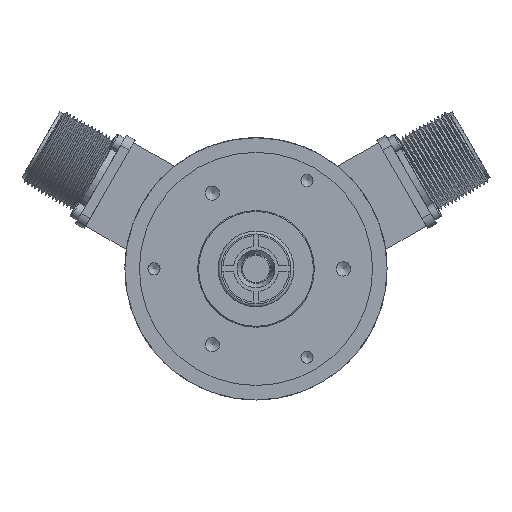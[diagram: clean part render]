
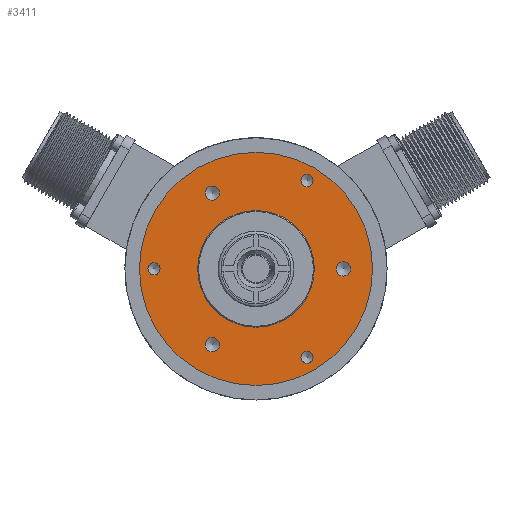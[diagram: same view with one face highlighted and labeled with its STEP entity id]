
A CAD part, left-side view. The second image highlights one B-rep face of the part: STEP entity #3411.
In plain terms, the highlighted planar face has unit normal (-1, 0, 0).
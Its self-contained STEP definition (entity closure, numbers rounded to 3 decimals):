
#3411 = ADVANCED_FACE( '', ( #7471, #7472, #7473, #7474, #7475, #7476, #7477, #7478 ), #7479, .F. );
#7471 = FACE_OUTER_BOUND( '', #14801, .T. );
#7472 = FACE_BOUND( '', #14802, .T. );
#7473 = FACE_BOUND( '', #14803, .T. );
#7474 = FACE_BOUND( '', #14804, .T. );
#7475 = FACE_BOUND( '', #14805, .T. );
#7476 = FACE_BOUND( '', #14806, .T. );
#7477 = FACE_BOUND( '', #14807, .T. );
#7478 = FACE_BOUND( '', #14808, .T. );
#7479 = PLANE( '', #14809 );
#14801 = EDGE_LOOP( '', ( #24397 ) );
#14802 = EDGE_LOOP( '', ( #24398 ) );
#14803 = EDGE_LOOP( '', ( #24399 ) );
#14804 = EDGE_LOOP( '', ( #24400 ) );
#14805 = EDGE_LOOP( '', ( #24401 ) );
#14806 = EDGE_LOOP( '', ( #24402 ) );
#14807 = EDGE_LOOP( '', ( #24403 ) );
#14808 = EDGE_LOOP( '', ( #24404 ) );
#14809 = AXIS2_PLACEMENT_3D( '', #24405, #24406, #24407 );
#24397 = ORIENTED_EDGE( '', *, *, #28884, .T. );
#24398 = ORIENTED_EDGE( '', *, *, #30658, .T. );
#24399 = ORIENTED_EDGE( '', *, *, #31049, .T. );
#24400 = ORIENTED_EDGE( '', *, *, #28782, .T. );
#24401 = ORIENTED_EDGE( '', *, *, #31050, .T. );
#24402 = ORIENTED_EDGE( '', *, *, #31051, .T. );
#24403 = ORIENTED_EDGE( '', *, *, #31052, .T. );
#24404 = ORIENTED_EDGE( '', *, *, #27818, .F. );
#24405 = CARTESIAN_POINT( '', ( -21.684, 0.327, 39.897 ) );
#24406 = DIRECTION( '', ( 1., 0., 0. ) );
#24407 = DIRECTION( '', ( 0., 1., 0. ) );
#27818 = EDGE_CURVE( '', #31895, #31895, #31896, .T. );
#28782 = EDGE_CURVE( '', #33541, #33541, #33542, .T. );
#28884 = EDGE_CURVE( '', #33693, #33693, #33694, .T. );
#30658 = EDGE_CURVE( '', #36100, #36100, #36101, .T. );
#31049 = EDGE_CURVE( '', #36549, #36549, #36550, .T. );
#31050 = EDGE_CURVE( '', #36551, #36551, #36552, .T. );
#31051 = EDGE_CURVE( '', #36553, #36553, #36554, .T. );
#31052 = EDGE_CURVE( '', #36555, #36555, #36556, .T. );
#31895 = VERTEX_POINT( '', #37749 );
#31896 = CIRCLE( '', #37750, 20. );
#33541 = VERTEX_POINT( '', #42374 );
#33542 = CIRCLE( '', #42375, 2.067 );
#33693 = VERTEX_POINT( '', #43343 );
#33694 = CIRCLE( '', #43344, 40. );
#36100 = VERTEX_POINT( '', #55526 );
#36101 = CIRCLE( '', #55527, 2.067 );
#36549 = VERTEX_POINT( '', #57644 );
#36550 = CIRCLE( '', #57645, 2.067 );
#36551 = VERTEX_POINT( '', #57646 );
#36552 = CIRCLE( '', #57647, 2.459 );
#36553 = VERTEX_POINT( '', #57648 );
#36554 = CIRCLE( '', #57649, 2.459 );
#36555 = VERTEX_POINT( '', #57650 );
#36556 = CIRCLE( '', #57651, 2.459 );
#37749 = CARTESIAN_POINT( '', ( -21.684, 0.327, 19.897 ) );
#37750 = AXIS2_PLACEMENT_3D( '', #60279, #60280, #60281 );
#42374 = CARTESIAN_POINT( '', ( -21.684, -17.173, -28.347 ) );
#42375 = AXIS2_PLACEMENT_3D( '', #62055, #62056, #62057 );
#43343 = CARTESIAN_POINT( '', ( -21.684, 0.327, 39.897 ) );
#43344 = AXIS2_PLACEMENT_3D( '', #62145, #62146, #62147 );
#55526 = CARTESIAN_POINT( '', ( -21.684, -17.173, 32.275 ) );
#55527 = AXIS2_PLACEMENT_3D( '', #63871, #63872, #63873 );
#57644 = CARTESIAN_POINT( '', ( -21.684, 35.327, 1.964 ) );
#57645 = AXIS2_PLACEMENT_3D( '', #64183, #64184, #64185 );
#57646 = CARTESIAN_POINT( '', ( -21.684, 15.327, 28.336 ) );
#57647 = AXIS2_PLACEMENT_3D( '', #64186, #64187, #64188 );
#57648 = CARTESIAN_POINT( '', ( -21.684, -29.673, 2.355 ) );
#57649 = AXIS2_PLACEMENT_3D( '', #64189, #64190, #64191 );
#57650 = CARTESIAN_POINT( '', ( -21.684, 15.327, -23.626 ) );
#57651 = AXIS2_PLACEMENT_3D( '', #64192, #64193, #64194 );
#60279 = CARTESIAN_POINT( '', ( -21.684, 0.327, -0.103 ) );
#60280 = DIRECTION( '', ( -1., 0., 0. ) );
#60281 = DIRECTION( '', ( 0., 0., 1. ) );
#62055 = CARTESIAN_POINT( '', ( -21.684, -17.173, -30.414 ) );
#62056 = DIRECTION( '', ( 1., 0., 0. ) );
#62057 = DIRECTION( '', ( 0., 0., 1. ) );
#62145 = CARTESIAN_POINT( '', ( -21.684, 0.327, -0.103 ) );
#62146 = DIRECTION( '', ( -1., 0., 0. ) );
#62147 = DIRECTION( '', ( 0., 0., 1. ) );
#63871 = CARTESIAN_POINT( '', ( -21.684, -17.173, 30.208 ) );
#63872 = DIRECTION( '', ( 1., 0., 0. ) );
#63873 = DIRECTION( '', ( 0., 0., 1. ) );
#64183 = CARTESIAN_POINT( '', ( -21.684, 35.327, -0.103 ) );
#64184 = DIRECTION( '', ( 1., 0., 0. ) );
#64185 = DIRECTION( '', ( 0., 0., 1. ) );
#64186 = CARTESIAN_POINT( '', ( -21.684, 15.327, 25.877 ) );
#64187 = DIRECTION( '', ( 1., 0., 0. ) );
#64188 = DIRECTION( '', ( 0., 0., 1. ) );
#64189 = CARTESIAN_POINT( '', ( -21.684, -29.673, -0.103 ) );
#64190 = DIRECTION( '', ( 1., 0., 0. ) );
#64191 = DIRECTION( '', ( 0., 0., 1. ) );
#64192 = CARTESIAN_POINT( '', ( -21.684, 15.327, -26.084 ) );
#64193 = DIRECTION( '', ( 1., 0., 0. ) );
#64194 = DIRECTION( '', ( 0., 0., 1. ) );
